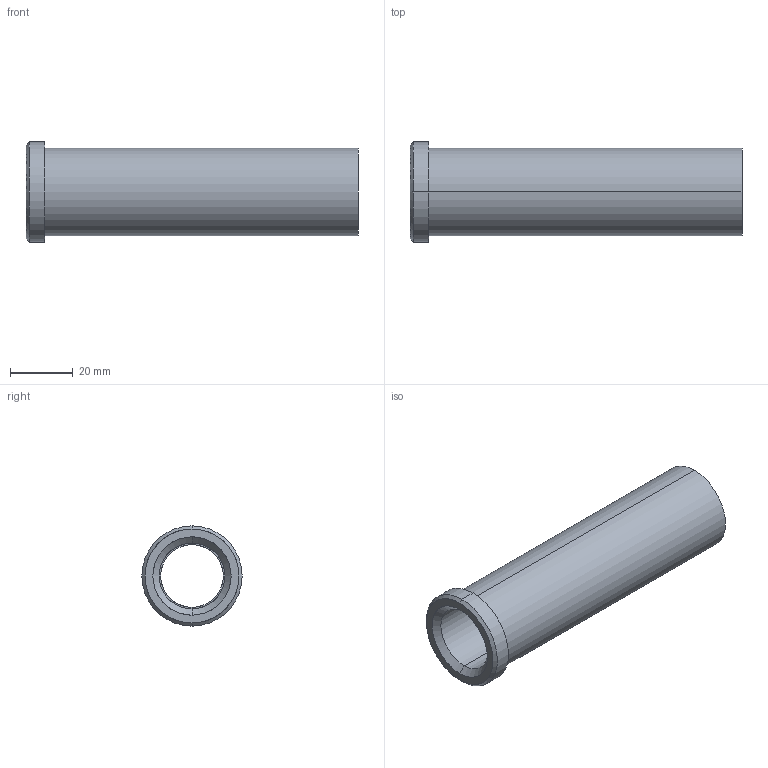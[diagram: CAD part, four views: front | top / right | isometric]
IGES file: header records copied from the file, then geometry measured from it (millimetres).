
Start section: START RECORD GO HERE.
Global section: file name: 353-20X106.igs; native system: DASSAULT SYSTEMES CATIA V5 R20 - www.3ds.com; preprocessor: CATIA Version 5 Release 20 ; author: Utente; organization: NB04-ASUS; date: 20210508.105234; units: millimetre
Bounding box: 106 x 32 x 32 mm (x, y, z)
Surface area: 17075.6 mm2 (no closed solid volume)
Topology: 0 solids, 0 shells, 18 faces, 116 edges, 116 vertices
Faces by surface type: revolution 14, plane 4
